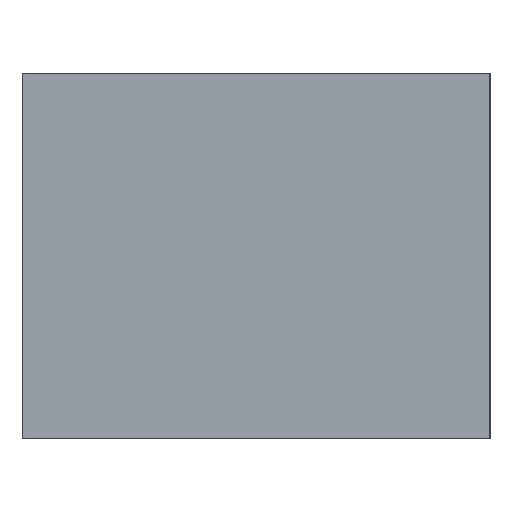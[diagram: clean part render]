
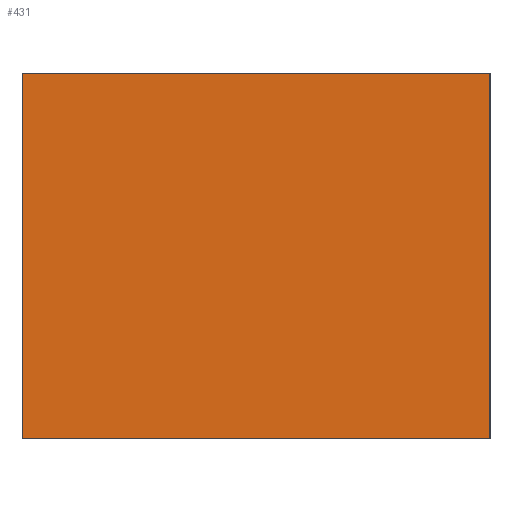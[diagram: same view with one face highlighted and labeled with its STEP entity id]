
A CAD part, left-side view. The second image highlights one B-rep face of the part: STEP entity #431.
In plain terms, the highlighted planar face has unit normal (-1, 0, 0).
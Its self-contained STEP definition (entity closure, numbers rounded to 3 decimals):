
#27 = CARTESIAN_POINT ( 'NONE',  ( 0., 0., 12.5 ) ) ;
#33 = CARTESIAN_POINT ( 'NONE',  ( 0., 16., 0. ) ) ;
#41 = CARTESIAN_POINT ( 'NONE',  ( 0., 0., 0. ) ) ;
#51 = CARTESIAN_POINT ( 'NONE',  ( 0., 16., 12.5 ) ) ;
#131 = DIRECTION ( 'NONE',  ( 0., -1., 0. ) ) ;
#132 = LINE ( 'NONE', #139, #695 ) ;
#139 = CARTESIAN_POINT ( 'NONE',  ( 0., 0., 0. ) ) ;
#203 = CARTESIAN_POINT ( 'NONE',  ( 0., 0., 12.5 ) ) ;
#214 = LINE ( 'NONE', #260, #712 ) ;
#250 = LINE ( 'NONE', #203, #688 ) ;
#252 = DIRECTION ( 'NONE',  ( 0., 0., -1. ) ) ;
#259 = DIRECTION ( 'NONE',  ( 0., -1., 0. ) ) ;
#260 = CARTESIAN_POINT ( 'NONE',  ( 0., 0., 12.5 ) ) ;
#271 = PLANE ( 'NONE',  #471 ) ;
#272 = CARTESIAN_POINT ( 'NONE',  ( 0., 0., 12.5 ) ) ;
#279 = DIRECTION ( 'NONE',  ( 1., 0., 0. ) ) ;
#280 = DIRECTION ( 'NONE',  ( 0., 0., -1. ) ) ;
#288 = DIRECTION ( 'NONE',  ( 0., 0., -1. ) ) ;
#292 = FACE_OUTER_BOUND ( 'NONE', #627, .T. ) ;
#306 = CARTESIAN_POINT ( 'NONE',  ( 0., 16., 12.5 ) ) ;
#308 = LINE ( 'NONE', #306, #711 ) ;
#402 = EDGE_CURVE ( 'NONE', #576, #510, #132, .T. ) ;
#417 = EDGE_CURVE ( 'NONE', #546, #510, #250, .T. ) ;
#426 = EDGE_CURVE ( 'NONE', #530, #546, #214, .T. ) ;
#427 = EDGE_CURVE ( 'NONE', #530, #576, #308, .T. ) ;
#431 = ADVANCED_FACE ( 'NONE', ( #292 ), #271, .F. ) ;
#471 = AXIS2_PLACEMENT_3D ( 'NONE', #272, #279, #280 ) ;
#510 = VERTEX_POINT ( 'NONE', #41 ) ;
#530 = VERTEX_POINT ( 'NONE', #51 ) ;
#546 = VERTEX_POINT ( 'NONE', #27 ) ;
#556 = ORIENTED_EDGE ( 'NONE', *, *, #427, .T. ) ;
#576 = VERTEX_POINT ( 'NONE', #33 ) ;
#593 = ORIENTED_EDGE ( 'NONE', *, *, #402, .T. ) ;
#594 = ORIENTED_EDGE ( 'NONE', *, *, #426, .F. ) ;
#613 = ORIENTED_EDGE ( 'NONE', *, *, #417, .F. ) ;
#627 = EDGE_LOOP ( 'NONE', ( #593, #613, #594, #556 ) ) ;
#688 = VECTOR ( 'NONE', #252, 1000. ) ;
#695 = VECTOR ( 'NONE', #131, 1000. ) ;
#711 = VECTOR ( 'NONE', #288, 1000. ) ;
#712 = VECTOR ( 'NONE', #259, 1000. ) ;
